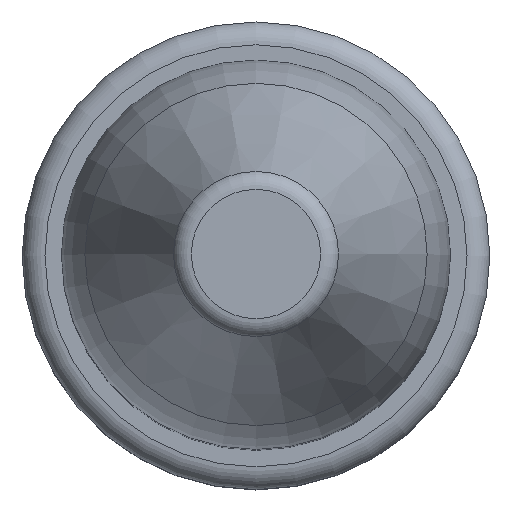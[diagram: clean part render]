
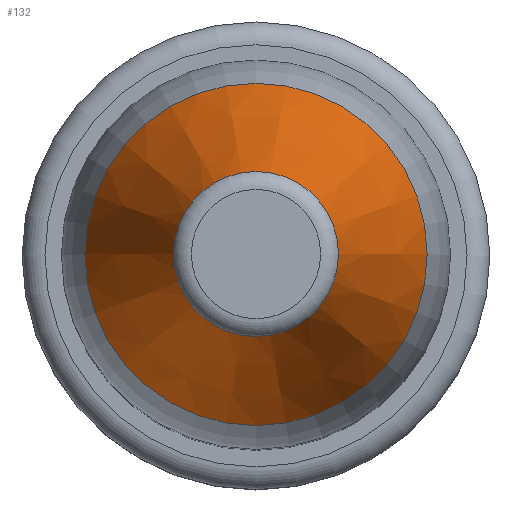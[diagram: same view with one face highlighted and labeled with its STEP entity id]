
A CAD part, top view. The second image highlights one B-rep face of the part: STEP entity #132.
In plain terms, the highlighted conical face has half-angle 20 degrees and reference radius 5.716 mm.
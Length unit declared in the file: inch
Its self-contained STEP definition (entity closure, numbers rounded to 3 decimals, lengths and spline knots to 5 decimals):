
#3 = AXIS2_PLACEMENT_3D ( 'NONE', #83, #124, #126 ) ;
#4 = CARTESIAN_POINT ( 'NONE',  ( 0., 0., 1.27511 ) ) ;
#6 = CARTESIAN_POINT ( 'NONE',  ( 0.10847, 0., 1.59535 ) ) ;
#7 = AXIS2_PLACEMENT_3D ( 'NONE', #128, #153, #113 ) ;
#23 = CARTESIAN_POINT ( 'NONE',  ( 0.22502, 0., 1.27511 ) ) ;
#51 = DIRECTION ( 'NONE',  ( -1., 0., 0. ) ) ;
#54 = VERTEX_POINT ( 'NONE', #23 ) ;
#67 = DIRECTION ( 'NONE',  ( 0., 0., -1. ) ) ;
#77 = CIRCLE ( 'NONE', #7, 0.10847 ) ;
#81 = EDGE_LOOP ( 'NONE', ( #120 ) ) ;
#82 = CONICAL_SURFACE ( 'NONE', #194, 0.22502, 0.349 ) ;
#83 = CARTESIAN_POINT ( 'NONE',  ( 0., 0., 1.27511 ) ) ;
#113 = DIRECTION ( 'NONE',  ( 1., 0., 0. ) ) ;
#120 = ORIENTED_EDGE ( 'NONE', *, *, #127, .T. ) ;
#122 = FACE_OUTER_BOUND ( 'NONE', #81, .T. ) ;
#124 = DIRECTION ( 'NONE',  ( 0., 0., 1. ) ) ;
#126 = DIRECTION ( 'NONE',  ( 1., 0., 0. ) ) ;
#127 = EDGE_CURVE ( 'NONE', #54, #54, #203, .T. ) ;
#128 = CARTESIAN_POINT ( 'NONE',  ( 0., 0., 1.59535 ) ) ;
#132 = ADVANCED_FACE ( 'NONE', ( #197, #122 ), #82, .T. ) ;
#137 = EDGE_LOOP ( 'NONE', ( #205 ) ) ;
#153 = DIRECTION ( 'NONE',  ( 0., 0., 1. ) ) ;
#158 = VERTEX_POINT ( 'NONE', #6 ) ;
#194 = AXIS2_PLACEMENT_3D ( 'NONE', #4, #67, #51 ) ;
#197 = FACE_BOUND ( 'NONE', #137, .T. ) ;
#203 = CIRCLE ( 'NONE', #3, 0.22502 ) ;
#205 = ORIENTED_EDGE ( 'NONE', *, *, #222, .F. ) ;
#222 = EDGE_CURVE ( 'NONE', #158, #158, #77, .T. ) ;
